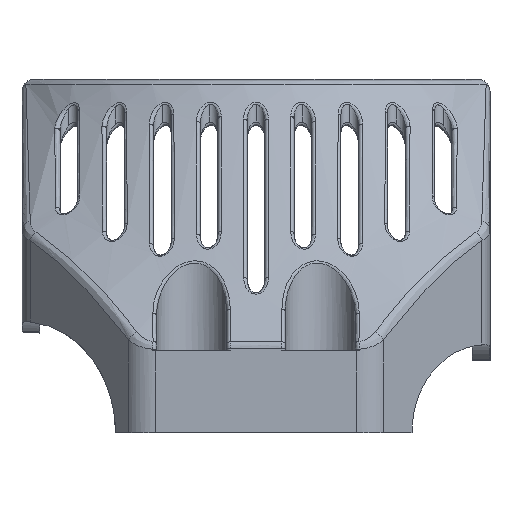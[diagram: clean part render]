
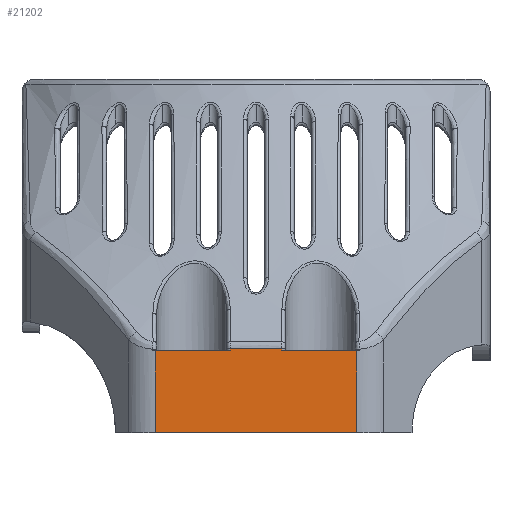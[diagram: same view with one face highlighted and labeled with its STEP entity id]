
A CAD part, left-side view. The second image highlights one B-rep face of the part: STEP entity #21202.
In plain terms, the highlighted planar face has unit normal (-1, 0, 0).
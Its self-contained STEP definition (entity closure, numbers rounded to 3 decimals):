
#321 = VECTOR ( 'NONE', #17326, 1000. ) ;
#1977 = CARTESIAN_POINT ( 'NONE',  ( -40.75, 20., -23.2 ) ) ;
#2446 = PLANE ( 'NONE',  #25330 ) ;
#2887 = EDGE_CURVE ( 'NONE', #16764, #16889, #18461, .T. ) ;
#3566 = B_SPLINE_CURVE_WITH_KNOTS ( 'NONE', 3,
 ( #31820, #28781, #9984, #15162 ),
 .UNSPECIFIED., .F., .F.,
 ( 4, 4 ),
 ( 0.006, 0.011 ),
 .UNSPECIFIED. ) ;
#5143 = CARTESIAN_POINT ( 'NONE',  ( -40.75, -8.595, -30.2 ) ) ;
#5631 = VECTOR ( 'NONE', #15301, 1000. ) ;
#6444 = CARTESIAN_POINT ( 'NONE',  ( -40.75, -8.595, -30.2 ) ) ;
#7035 = CARTESIAN_POINT ( 'NONE',  ( -40.75, -20., -23.2 ) ) ;
#8643 = VECTOR ( 'NONE', #11865, 1000. ) ;
#8940 = VERTEX_POINT ( 'NONE', #24896 ) ;
#9432 = EDGE_CURVE ( 'NONE', #16889, #34267, #30938, .T. ) ;
#9751 = ORIENTED_EDGE ( 'NONE', *, *, #13427, .T. ) ;
#9984 = CARTESIAN_POINT ( 'NONE',  ( -40.75, 0.733, -23.028 ) ) ;
#10146 = FACE_OUTER_BOUND ( 'NONE', #33205, .T. ) ;
#11688 = LINE ( 'NONE', #30331, #8643 ) ;
#11865 = DIRECTION ( 'NONE',  ( 0., 0., 1. ) ) ;
#12085 = CARTESIAN_POINT ( 'NONE',  ( -40.75, -2.2, -23.032 ) ) ;
#12881 = VECTOR ( 'NONE', #23631, 1000. ) ;
#13427 = EDGE_CURVE ( 'NONE', #27278, #20615, #34552, .T. ) ;
#13785 = VERTEX_POINT ( 'NONE', #12085 ) ;
#15162 = CARTESIAN_POINT ( 'NONE',  ( -40.75, 2.2, -23.032 ) ) ;
#15247 = ORIENTED_EDGE ( 'NONE', *, *, #9432, .F. ) ;
#15301 = DIRECTION ( 'NONE',  ( 0., -1., 0. ) ) ;
#15356 = DIRECTION ( 'NONE',  ( 0., 0., -1. ) ) ;
#15376 = ORIENTED_EDGE ( 'NONE', *, *, #24414, .T. ) ;
#16369 = DIRECTION ( 'NONE',  ( 1., 0., 0. ) ) ;
#16577 = EDGE_CURVE ( 'NONE', #17660, #34267, #26422, .T. ) ;
#16764 = VERTEX_POINT ( 'NONE', #35173 ) ;
#16889 = VERTEX_POINT ( 'NONE', #33680 ) ;
#17099 = EDGE_CURVE ( 'NONE', #20615, #17660, #30588, .T. ) ;
#17326 = DIRECTION ( 'NONE',  ( 0., 0., -1. ) ) ;
#17660 = VERTEX_POINT ( 'NONE', #27126 ) ;
#18054 = LINE ( 'NONE', #28978, #24622 ) ;
#18202 = VECTOR ( 'NONE', #30416, 1000. ) ;
#18359 = CARTESIAN_POINT ( 'NONE',  ( -40.75, 20., -30.2 ) ) ;
#18461 = LINE ( 'NONE', #7035, #31318 ) ;
#20615 = VERTEX_POINT ( 'NONE', #28665 ) ;
#21202 = ADVANCED_FACE ( 'NONE', ( #10146 ), #2446, .F. ) ;
#22351 = CARTESIAN_POINT ( 'NONE',  ( -40.75, 8.595, -30.2 ) ) ;
#23556 = CARTESIAN_POINT ( 'NONE',  ( -40.75, 2.2, -23.2 ) ) ;
#23631 = DIRECTION ( 'NONE',  ( 0., 1., 0. ) ) ;
#24414 = EDGE_CURVE ( 'NONE', #13785, #8940, #3566, .T. ) ;
#24434 = DIRECTION ( 'NONE',  ( 0., 0., -1. ) ) ;
#24622 = VECTOR ( 'NONE', #15356, 1000. ) ;
#24896 = CARTESIAN_POINT ( 'NONE',  ( -40.75, 2.2, -23.032 ) ) ;
#25009 = ORIENTED_EDGE ( 'NONE', *, *, #26260, .T. ) ;
#25153 = ORIENTED_EDGE ( 'NONE', *, *, #27385, .T. ) ;
#25330 = AXIS2_PLACEMENT_3D ( 'NONE', #35369, #16369, #24434 ) ;
#25953 = ORIENTED_EDGE ( 'NONE', *, *, #17099, .T. ) ;
#26260 = EDGE_CURVE ( 'NONE', #8940, #27278, #18054, .T. ) ;
#26422 = LINE ( 'NONE', #18359, #5631 ) ;
#27126 = CARTESIAN_POINT ( 'NONE',  ( -40.75, 8.595, -30.2 ) ) ;
#27278 = VERTEX_POINT ( 'NONE', #23556 ) ;
#27385 = EDGE_CURVE ( 'NONE', #16764, #13785, #11688, .T. ) ;
#28495 = ORIENTED_EDGE ( 'NONE', *, *, #16577, .T. ) ;
#28665 = CARTESIAN_POINT ( 'NONE',  ( -40.75, 8.595, -23.2 ) ) ;
#28781 = CARTESIAN_POINT ( 'NONE',  ( -40.75, -0.733, -23.028 ) ) ;
#28978 = CARTESIAN_POINT ( 'NONE',  ( -40.75, 2.2, -30.2 ) ) ;
#30331 = CARTESIAN_POINT ( 'NONE',  ( -40.75, -2.2, -30.2 ) ) ;
#30416 = DIRECTION ( 'NONE',  ( 0., 0., -1. ) ) ;
#30484 = ORIENTED_EDGE ( 'NONE', *, *, #2887, .F. ) ;
#30588 = LINE ( 'NONE', #22351, #18202 ) ;
#30938 = LINE ( 'NONE', #6444, #321 ) ;
#31318 = VECTOR ( 'NONE', #31717, 1000. ) ;
#31717 = DIRECTION ( 'NONE',  ( 0., -1., 0. ) ) ;
#31820 = CARTESIAN_POINT ( 'NONE',  ( -40.75, -2.2, -23.032 ) ) ;
#33205 = EDGE_LOOP ( 'NONE', ( #15376, #25009, #9751, #25953, #28495, #15247, #30484, #25153 ) ) ;
#33680 = CARTESIAN_POINT ( 'NONE',  ( -40.75, -8.595, -23.2 ) ) ;
#34267 = VERTEX_POINT ( 'NONE', #5143 ) ;
#34552 = LINE ( 'NONE', #1977, #12881 ) ;
#35173 = CARTESIAN_POINT ( 'NONE',  ( -40.75, -2.2, -23.2 ) ) ;
#35369 = CARTESIAN_POINT ( 'NONE',  ( -40.75, 20., -30.2 ) ) ;
